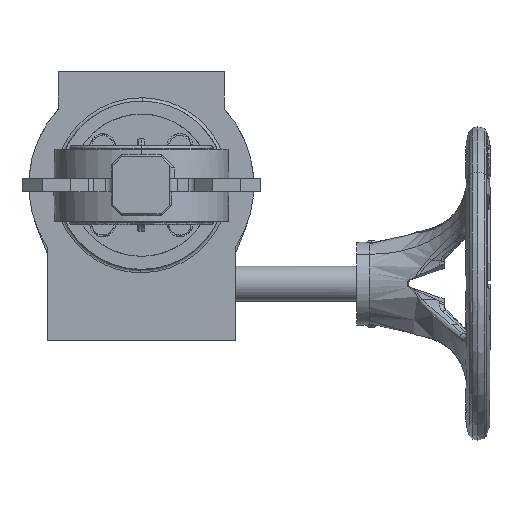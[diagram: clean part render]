
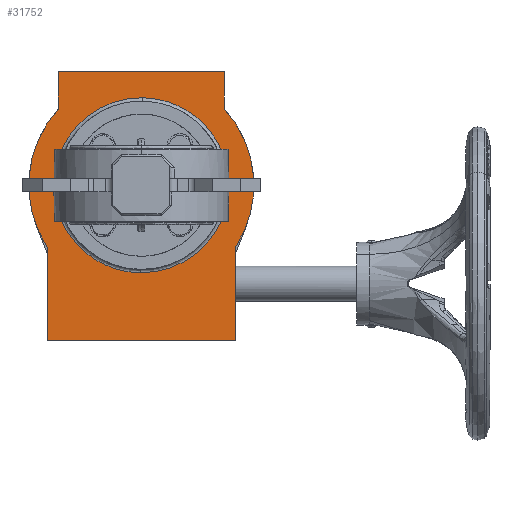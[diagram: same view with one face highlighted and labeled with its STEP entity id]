
A CAD part, front view. The second image highlights one B-rep face of the part: STEP entity #31752.
In plain terms, the highlighted planar face has unit normal (0, -1, 0).
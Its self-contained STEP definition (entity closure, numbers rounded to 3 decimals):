
#166 = LINE ( 'NONE', #13219, #56703 ) ;
#1930 = VECTOR ( 'NONE', #53614, 1000. ) ;
#4009 = VERTEX_POINT ( 'NONE', #76783 ) ;
#4452 = VERTEX_POINT ( 'NONE', #9137 ) ;
#4511 = VECTOR ( 'NONE', #39863, 1000. ) ;
#6116 = LINE ( 'NONE', #42142, #66518 ) ;
#6774 = FACE_OUTER_BOUND ( 'NONE', #76879, .T. ) ;
#9137 = CARTESIAN_POINT ( 'NONE',  ( 38., 120., 34.76 ) ) ;
#9879 = DIRECTION ( 'NONE',  ( 0., 0., 1. ) ) ;
#10690 = EDGE_CURVE ( 'NONE', #33287, #4009, #43835, .T. ) ;
#11521 = CARTESIAN_POINT ( 'NONE',  ( 0., 120., -40. ) ) ;
#11589 = DIRECTION ( 'NONE',  ( 0., 0., -1. ) ) ;
#11806 = ORIENTED_EDGE ( 'NONE', *, *, #73953, .F. ) ;
#12069 = VERTEX_POINT ( 'NONE', #33987 ) ;
#13219 = CARTESIAN_POINT ( 'NONE',  ( 38., 120., 0. ) ) ;
#13548 = CARTESIAN_POINT ( 'NONE',  ( 0., 120., -40. ) ) ;
#15117 = ORIENTED_EDGE ( 'NONE', *, *, #62268, .F. ) ;
#17554 = CARTESIAN_POINT ( 'NONE',  ( 0.128, 120., 40. ) ) ;
#17794 = DIRECTION ( 'NONE',  ( 0., 0., 1. ) ) ;
#18766 = ORIENTED_EDGE ( 'NONE', *, *, #31241, .F. ) ;
#20824 = ORIENTED_EDGE ( 'NONE', *, *, #74466, .F. ) ;
#22163 = DIRECTION ( 'NONE',  ( 0., 0., -1. ) ) ;
#22214 = ORIENTED_EDGE ( 'NONE', *, *, #49343, .F. ) ;
#25100 = LINE ( 'NONE', #32998, #1930 ) ;
#25569 = ORIENTED_EDGE ( 'NONE', *, *, #50578, .F. ) ;
#26097 = CARTESIAN_POINT ( 'NONE',  ( 79.619, 120., 39.239 ) ) ;
#27648 = CARTESIAN_POINT ( 'NONE',  ( -43., 120., -71. ) ) ;
#28172 = CARTESIAN_POINT ( 'NONE',  ( 0., 120., 40. ) ) ;
#28377 = PLANE ( 'NONE',  #57560 ) ;
#28850 = LINE ( 'NONE', #78941, #78013 ) ;
#30128 = VERTEX_POINT ( 'NONE', #13548 ) ;
#30319 = CARTESIAN_POINT ( 'NONE',  ( 0.383, 120., 39.998 ) ) ;
#31241 = EDGE_CURVE ( 'NONE', #51506, #77653, #54731, .T. ) ;
#31752 = ADVANCED_FACE ( 'NONE', ( #42346, #6774 ), #28377, .F. ) ;
#31800 = CARTESIAN_POINT ( 'NONE',  ( 0., 120., 0. ) ) ;
#31936 = CARTESIAN_POINT ( 'NONE',  ( 0., 120., -71. ) ) ;
#32793 = CARTESIAN_POINT ( 'NONE',  ( -0.383, 120., -39.998 ) ) ;
#32998 = CARTESIAN_POINT ( 'NONE',  ( -38., 120., 0. ) ) ;
#33287 = VERTEX_POINT ( 'NONE', #71639 ) ;
#33448 = VERTEX_POINT ( 'NONE', #56970 ) ;
#33987 = CARTESIAN_POINT ( 'NONE',  ( 38., 120., 52. ) ) ;
#34149 = CARTESIAN_POINT ( 'NONE',  ( 43., 120., 0. ) ) ;
#37207 = VERTEX_POINT ( 'NONE', #82011 ) ;
#37933 = AXIS2_PLACEMENT_3D ( 'NONE', #67106, #82120, #90068 ) ;
#39863 = DIRECTION ( 'NONE',  ( -1., 0., 0. ) ) ;
#40094 = EDGE_CURVE ( 'NONE', #33448, #33287, #84244, .T. ) ;
#40732 = EDGE_LOOP ( 'NONE', ( #48064, #55290, #22214, #25569 ) ) ;
#42142 = CARTESIAN_POINT ( 'NONE',  ( 0., 120., 52. ) ) ;
#42346 = FACE_BOUND ( 'NONE', #40732, .T. ) ;
#43079 = DIRECTION ( 'NONE',  ( 1., 0., 0. ) ) ;
#43835 =( BOUNDED_CURVE ( )  B_SPLINE_CURVE ( 3, ( #28172, #56667, #85283, #91852 ),
 .UNSPECIFIED., .F., .F. ) 
 B_SPLINE_CURVE_WITH_KNOTS ( ( 4, 4 ),
 ( 0., 0.997 ),
 .UNSPECIFIED. ) 
 CURVE ( )  GEOMETRIC_REPRESENTATION_ITEM ( )  RATIONAL_B_SPLINE_CURVE ( ( 1., 0.337, 0.337, 1. ) ) 
 REPRESENTATION_ITEM ( '' )  );
#45978 = ORIENTED_EDGE ( 'NONE', *, *, #60155, .F. ) ;
#46210 = EDGE_CURVE ( 'NONE', #69571, #72481, #28850, .T. ) ;
#46662 = CARTESIAN_POINT ( 'NONE',  ( 0.383, 120., 39.998 ) ) ;
#46810 = CARTESIAN_POINT ( 'NONE',  ( 0., 120., 0. ) ) ;
#46960 = CARTESIAN_POINT ( 'NONE',  ( 43., 120., -28.342 ) ) ;
#48064 = ORIENTED_EDGE ( 'NONE', *, *, #10690, .F. ) ;
#49343 = EDGE_CURVE ( 'NONE', #30128, #33448, #58469, .T. ) ;
#49464 =( BOUNDED_CURVE ( )  B_SPLINE_CURVE ( 3, ( #32793, #54301, #82952, #65792 ),
 .UNSPECIFIED., .F., .T. ) 
 B_SPLINE_CURVE_WITH_KNOTS ( ( 4, 4 ),
 ( 0.997, 1. ),
 .UNSPECIFIED. ) 
 CURVE ( )  GEOMETRIC_REPRESENTATION_ITEM ( )  RATIONAL_B_SPLINE_CURVE ( ( 1., 1., 1., 1. ) ) 
 REPRESENTATION_ITEM ( '' )  );
#50400 = CARTESIAN_POINT ( 'NONE',  ( -38., 120., 34.76 ) ) ;
#50544 = ORIENTED_EDGE ( 'NONE', *, *, #77148, .F. ) ;
#50578 = EDGE_CURVE ( 'NONE', #4009, #30128, #49464, .T. ) ;
#50907 = CARTESIAN_POINT ( 'NONE',  ( 43., 120., -71. ) ) ;
#51506 = VERTEX_POINT ( 'NONE', #46960 ) ;
#53150 = CARTESIAN_POINT ( 'NONE',  ( 0.256, 120., 39.999 ) ) ;
#53614 = DIRECTION ( 'NONE',  ( 0., 0., 1. ) ) ;
#53700 = EDGE_CURVE ( 'NONE', #37207, #12069, #6116, .T. ) ;
#54301 = CARTESIAN_POINT ( 'NONE',  ( -0.256, 120., -39.999 ) ) ;
#54731 = LINE ( 'NONE', #34149, #66397 ) ;
#55290 = ORIENTED_EDGE ( 'NONE', *, *, #40094, .F. ) ;
#56657 = VERTEX_POINT ( 'NONE', #50400 ) ;
#56667 = CARTESIAN_POINT ( 'NONE',  ( -79.24, 120., 40. ) ) ;
#56703 = VECTOR ( 'NONE', #22163, 1000. ) ;
#56970 = CARTESIAN_POINT ( 'NONE',  ( 0.383, 120., 39.998 ) ) ;
#57560 = AXIS2_PLACEMENT_3D ( 'NONE', #46810, #76370, #17794 ) ;
#58469 =( BOUNDED_CURVE ( )  B_SPLINE_CURVE ( 3, ( #11521, #69150, #26097, #46662 ),
 .UNSPECIFIED., .F., .T. ) 
 B_SPLINE_CURVE_WITH_KNOTS ( ( 4, 4 ),
 ( 0., 0.997 ),
 .UNSPECIFIED. ) 
 CURVE ( )  GEOMETRIC_REPRESENTATION_ITEM ( )  RATIONAL_B_SPLINE_CURVE ( ( 1., 0.337, 0.337, 1. ) ) 
 REPRESENTATION_ITEM ( '' )  );
#60155 = EDGE_CURVE ( 'NONE', #77653, #69571, #67982, .T. ) ;
#62268 = EDGE_CURVE ( 'NONE', #4452, #51506, #78370, .T. ) ;
#65792 = CARTESIAN_POINT ( 'NONE',  ( 0., 120., -40. ) ) ;
#66397 = VECTOR ( 'NONE', #69300, 1000. ) ;
#66518 = VECTOR ( 'NONE', #43079, 1000. ) ;
#66847 = CARTESIAN_POINT ( 'NONE',  ( -43., 120., -28.342 ) ) ;
#67106 = CARTESIAN_POINT ( 'NONE',  ( 0., 120., 0. ) ) ;
#67982 = LINE ( 'NONE', #31936, #4511 ) ;
#69150 = CARTESIAN_POINT ( 'NONE',  ( 79.24, 120., -40. ) ) ;
#69197 = ORIENTED_EDGE ( 'NONE', *, *, #53700, .F. ) ;
#69300 = DIRECTION ( 'NONE',  ( 0., 0., -1. ) ) ;
#69571 = VERTEX_POINT ( 'NONE', #27648 ) ;
#71639 = CARTESIAN_POINT ( 'NONE',  ( 0., 120., 40. ) ) ;
#72481 = VERTEX_POINT ( 'NONE', #66847 ) ;
#73953 = EDGE_CURVE ( 'NONE', #12069, #4452, #166, .T. ) ;
#74466 = EDGE_CURVE ( 'NONE', #72481, #56657, #80752, .T. ) ;
#75803 = DIRECTION ( 'NONE',  ( 0., 1., 0. ) ) ;
#76370 = DIRECTION ( 'NONE',  ( 0., 1., 0. ) ) ;
#76783 = CARTESIAN_POINT ( 'NONE',  ( -0.383, 120., -39.998 ) ) ;
#76879 = EDGE_LOOP ( 'NONE', ( #15117, #11806, #69197, #50544, #20824, #77742, #45978, #18766 ) ) ;
#77148 = EDGE_CURVE ( 'NONE', #56657, #37207, #25100, .T. ) ;
#77653 = VERTEX_POINT ( 'NONE', #50907 ) ;
#77742 = ORIENTED_EDGE ( 'NONE', *, *, #46210, .F. ) ;
#78013 = VECTOR ( 'NONE', #9879, 1000. ) ;
#78370 = CIRCLE ( 'NONE', #37933, 51.5 ) ;
#78941 = CARTESIAN_POINT ( 'NONE',  ( -43., 120., 0. ) ) ;
#80752 = CIRCLE ( 'NONE', #82264, 51.5 ) ;
#82011 = CARTESIAN_POINT ( 'NONE',  ( -38., 120., 52. ) ) ;
#82120 = DIRECTION ( 'NONE',  ( 0., 1., 0. ) ) ;
#82264 = AXIS2_PLACEMENT_3D ( 'NONE', #31800, #75803, #11589 ) ;
#82952 = CARTESIAN_POINT ( 'NONE',  ( -0.128, 120., -40. ) ) ;
#84244 =( BOUNDED_CURVE ( )  B_SPLINE_CURVE ( 3, ( #30319, #53150, #17554, #88343 ),
 .UNSPECIFIED., .F., .F. ) 
 B_SPLINE_CURVE_WITH_KNOTS ( ( 4, 4 ),
 ( 0.997, 1. ),
 .UNSPECIFIED. ) 
 CURVE ( )  GEOMETRIC_REPRESENTATION_ITEM ( )  RATIONAL_B_SPLINE_CURVE ( ( 1., 1., 1., 1. ) ) 
 REPRESENTATION_ITEM ( '' )  );
#85283 = CARTESIAN_POINT ( 'NONE',  ( -79.619, 120., -39.239 ) ) ;
#88343 = CARTESIAN_POINT ( 'NONE',  ( 0., 120., 40. ) ) ;
#90068 = DIRECTION ( 'NONE',  ( 0., 0., 1. ) ) ;
#91852 = CARTESIAN_POINT ( 'NONE',  ( -0.383, 120., -39.998 ) ) ;
